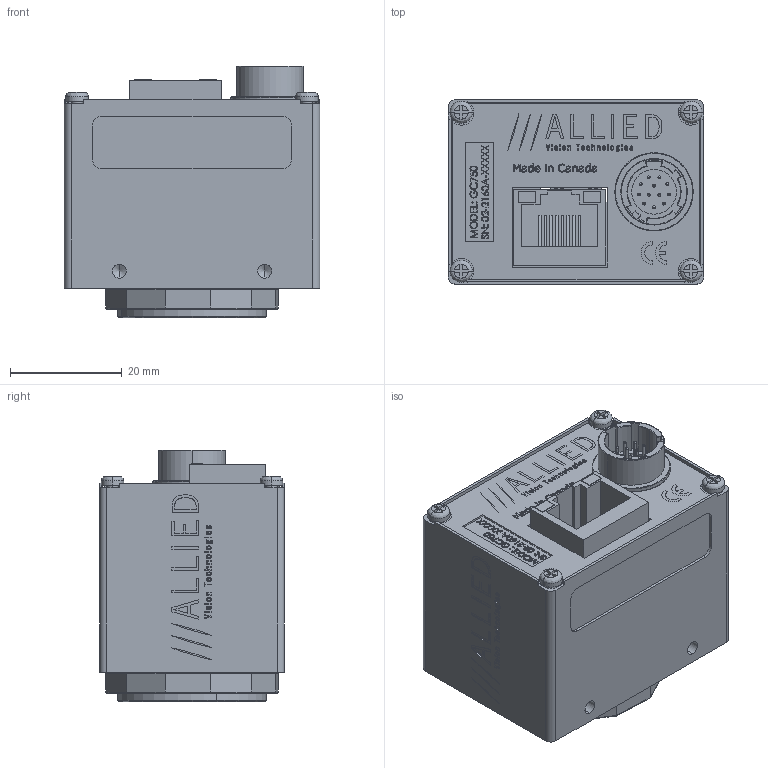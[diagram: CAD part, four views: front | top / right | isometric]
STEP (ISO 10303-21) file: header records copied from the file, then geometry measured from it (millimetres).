
FILE_DESCRIPTION (( 'STEP AP214' ), '1' );
FILE_NAME ('GC750.STEP', '2013-07-31T16:02:28', ( '' ), ( '' ), 'SwSTEP 2.0', 'SolidWorks 2013', '' );
FILE_SCHEMA (( 'AUTOMOTIVE_DESIGN' ));
Length unit declared in the file: millimetre
Products named in the file (17): 110039A-C ADJUSTABLE CS MOUNT RING; 740032B-GC MAIN LABEL; 200047A-A GC INTERFACE PCB ASSY; 260033-AMPHENOL RJHS-3381; 740069AA-GC750M LABEL PRINT; 260034-HIROSE HR10A-10R-12PB; 140018-SCREW PAN M2x8 SS; 110040A-B LOCKING RING CS MOUNT; 110047B-GC-CMOS FRONT_Finished with logo; 140017-SCREW PAN M2x4 SS; 200019BA-PCB ASSEMBLY EC750M SENSOR-with sensor; 220044-MICRON MT9V022177ATM; MT9V022 WINDOW; MT9V022 PACKAGE; GC750; 110043A GC BACK PLATE; 110043A GC BACK PLATE - WO HW
Assembly tree (20 placements, depth 4):
  GC750
    200019BA-PCB ASSEMBLY EC750M SENSOR-with sensor
      220044-MICRON MT9V022177ATM
        MT9V022 PACKAGE
        MT9V022 WINDOW
    140017-SCREW PAN M2x4 SS  x4
    110047B-GC-CMOS FRONT_Finished with logo
    110040A-B LOCKING RING CS MOUNT
    140018-SCREW PAN M2x8 SS  x2
    260034-HIROSE HR10A-10R-12PB
    740069AA-GC750M LABEL PRINT
    200047A-A GC INTERFACE PCB ASSY
      260033-AMPHENOL RJHS-3381
    740032B-GC MAIN LABEL
    110039A-C ADJUSTABLE CS MOUNT RING
    110043A GC BACK PLATE
      110043A GC BACK PLATE - WO HW
Bounding box: 45.72 x 33.02 x 45.05 mm (x, y, z)
Volume: 17847.8 mm3; surface area: 24840 mm2
Topology: 16 solids, 16 shells, 2744 faces, 7429 edges, 4734 vertices
Faces by surface type: plane 1426, bspline 952, cylinder 224, cone 142
Entity records: 144006 total; most frequent: CARTESIAN_POINT 55380, ORIENTED_EDGE 13738, DIRECTION 9221, EDGE_CURVE 6869, VERTEX_POINT 4556, LINE 4211, VECTOR 4211, EDGE_LOOP 2979
